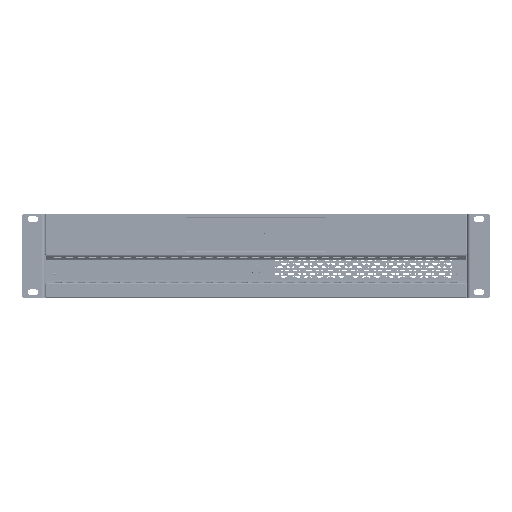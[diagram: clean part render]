
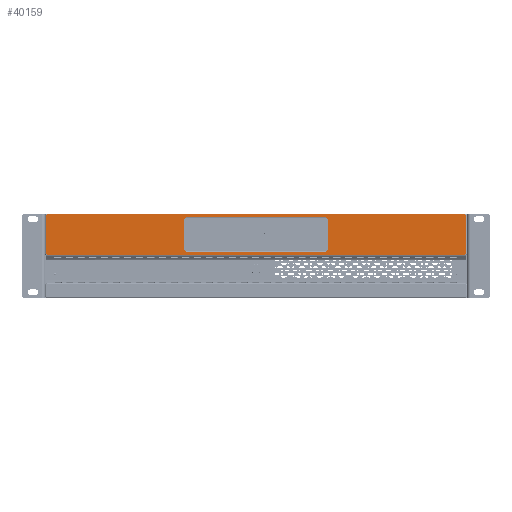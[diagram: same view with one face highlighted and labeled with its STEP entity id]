
A CAD part, top view. The second image highlights one B-rep face of the part: STEP entity #40159.
In plain terms, the highlighted planar face has unit normal (0, 0, 1).
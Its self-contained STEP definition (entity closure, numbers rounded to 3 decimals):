
#299 = VECTOR ( 'NONE', #232026, 1000. ) ;
#2179 = ORIENTED_EDGE ( 'NONE', *, *, #50499, .T. ) ;
#2362 = CARTESIAN_POINT ( 'NONE',  ( 695.4, 1039.124, 1675.694 ) ) ;
#4011 = ORIENTED_EDGE ( 'NONE', *, *, #243586, .T. ) ;
#9857 = CARTESIAN_POINT ( 'NONE',  ( 841.4, 1004.724, 1675.694 ) ) ;
#10285 = ORIENTED_EDGE ( 'NONE', *, *, #365114, .T. ) ;
#10516 = CARTESIAN_POINT ( 'NONE',  ( 404.4, 1004.724, 1675.694 ) ) ;
#10804 = DIRECTION ( 'NONE',  ( 0., 1., 0. ) ) ;
#13104 = ORIENTED_EDGE ( 'NONE', *, *, #17872, .T. ) ;
#13847 = AXIS2_PLACEMENT_3D ( 'NONE', #2362, #206776, #117858 ) ;
#15894 = VERTEX_POINT ( 'NONE', #167370 ) ;
#16342 = DIRECTION ( 'NONE',  ( 0., 0., -1. ) ) ;
#17084 = DIRECTION ( 'NONE',  ( -1., 0., 0. ) ) ;
#17872 = EDGE_CURVE ( 'NONE', #79213, #129396, #99486, .T. ) ;
#19382 = VECTOR ( 'NONE', #249282, 1000. ) ;
#23233 = EDGE_CURVE ( 'NONE', #33945, #152427, #162117, .T. ) ;
#23895 = LINE ( 'NONE', #116569, #299 ) ;
#23916 = LINE ( 'NONE', #283323, #19382 ) ;
#24650 = PLANE ( 'NONE',  #192707 ) ;
#29161 = CARTESIAN_POINT ( 'NONE',  ( 698.7, 1010.124, 1675.694 ) ) ;
#33411 = CARTESIAN_POINT ( 'NONE',  ( 405.4, 1004.724, 1675.694 ) ) ;
#33945 = VERTEX_POINT ( 'NONE', #186358 ) ;
#40159 = ADVANCED_FACE ( 'NONE', ( #193205, #138252 ), #24650, .F. ) ;
#41776 = DIRECTION ( 'NONE',  ( -1., 0., 0. ) ) ;
#45164 = AXIS2_PLACEMENT_3D ( 'NONE', #216652, #279145, #72808 ) ;
#50355 = CARTESIAN_POINT ( 'NONE',  ( 695.4, 1042.424, 1675.694 ) ) ;
#50499 = EDGE_CURVE ( 'NONE', #220933, #319322, #179268, .T. ) ;
#51854 = VERTEX_POINT ( 'NONE', #10516 ) ;
#57284 = ORIENTED_EDGE ( 'NONE', *, *, #337856, .T. ) ;
#63995 = CIRCLE ( 'NONE', #305982, 1. ) ;
#66061 = AXIS2_PLACEMENT_3D ( 'NONE', #76876, #16342, #251025 ) ;
#67029 = VERTEX_POINT ( 'NONE', #29161 ) ;
#69146 = ORIENTED_EDGE ( 'NONE', *, *, #23233, .T. ) ;
#72808 = DIRECTION ( 'NONE',  ( -1., 0., 0. ) ) ;
#75768 = LINE ( 'NONE', #274621, #150216 ) ;
#75865 = DIRECTION ( 'NONE',  ( 0., 0., -1. ) ) ;
#76876 = CARTESIAN_POINT ( 'NONE',  ( 551.4, 1010.124, 1675.694 ) ) ;
#77975 = AXIS2_PLACEMENT_3D ( 'NONE', #369106, #162797, #338837 ) ;
#79213 = VERTEX_POINT ( 'NONE', #109835 ) ;
#83064 = ORIENTED_EDGE ( 'NONE', *, *, #298148, .T. ) ;
#97610 = CARTESIAN_POINT ( 'NONE',  ( 623.4, 1003.724, 1675.694 ) ) ;
#99486 = CIRCLE ( 'NONE', #45164, 1. ) ;
#102330 = CARTESIAN_POINT ( 'NONE',  ( 551.4, 1039.124, 1675.694 ) ) ;
#103459 = DIRECTION ( 'NONE',  ( 1., 0., 0. ) ) ;
#108181 = EDGE_CURVE ( 'NONE', #51854, #358679, #63995, .T. ) ;
#109835 = CARTESIAN_POINT ( 'NONE',  ( 842.4, 1044.524, 1675.694 ) ) ;
#113161 = CIRCLE ( 'NONE', #149576, 1. ) ;
#115755 = CARTESIAN_POINT ( 'NONE',  ( 405.4, 1045.524, 1675.694 ) ) ;
#116569 = CARTESIAN_POINT ( 'NONE',  ( 842.4, 1024.624, 1675.694 ) ) ;
#117858 = DIRECTION ( 'NONE',  ( -1., 0., 0. ) ) ;
#121079 = DIRECTION ( 'NONE',  ( -1., 0., 0. ) ) ;
#122682 = CARTESIAN_POINT ( 'NONE',  ( 548.1, 1010.124, 1675.694 ) ) ;
#124801 = LINE ( 'NONE', #240280, #297108 ) ;
#127869 = LINE ( 'NONE', #97610, #217922 ) ;
#127890 = CARTESIAN_POINT ( 'NONE',  ( 698.7, 1039.124, 1675.694 ) ) ;
#129396 = VERTEX_POINT ( 'NONE', #273727 ) ;
#129787 = ORIENTED_EDGE ( 'NONE', *, *, #238579, .T. ) ;
#130145 = CARTESIAN_POINT ( 'NONE',  ( 695.4, 1042.424, 1675.694 ) ) ;
#131781 = EDGE_CURVE ( 'NONE', #247039, #67029, #337159, .T. ) ;
#132516 = VECTOR ( 'NONE', #251884, 1000. ) ;
#134443 = DIRECTION ( 'NONE',  ( 0., 0., -1. ) ) ;
#136417 = CARTESIAN_POINT ( 'NONE',  ( 698.7, 1024.624, 1675.694 ) ) ;
#138252 = FACE_OUTER_BOUND ( 'NONE', #215644, .T. ) ;
#141999 = DIRECTION ( 'NONE',  ( 0., -1., 0. ) ) ;
#144303 = EDGE_CURVE ( 'NONE', #319322, #51854, #23916, .T. ) ;
#148878 = DIRECTION ( 'NONE',  ( 0., 0., 1. ) ) ;
#149576 = AXIS2_PLACEMENT_3D ( 'NONE', #9857, #299570, #180313 ) ;
#150216 = VECTOR ( 'NONE', #17084, 1000. ) ;
#150678 = ORIENTED_EDGE ( 'NONE', *, *, #156523, .T. ) ;
#152427 = VERTEX_POINT ( 'NONE', #130145 ) ;
#156523 = EDGE_CURVE ( 'NONE', #302056, #257874, #124801, .T. ) ;
#162117 = LINE ( 'NONE', #50355, #196157 ) ;
#162797 = DIRECTION ( 'NONE',  ( 0., 0., -1. ) ) ;
#167370 = CARTESIAN_POINT ( 'NONE',  ( 841.4, 1003.724, 1675.694 ) ) ;
#168234 = CIRCLE ( 'NONE', #210373, 3.3 ) ;
#177095 = CIRCLE ( 'NONE', #13847, 3.3 ) ;
#179268 = CIRCLE ( 'NONE', #215686, 1. ) ;
#180313 = DIRECTION ( 'NONE',  ( -1., 0., 0. ) ) ;
#183761 = ORIENTED_EDGE ( 'NONE', *, *, #319388, .T. ) ;
#186358 = CARTESIAN_POINT ( 'NONE',  ( 551.4, 1042.424, 1675.694 ) ) ;
#188126 = DIRECTION ( 'NONE',  ( 0., 0., 1. ) ) ;
#192707 = AXIS2_PLACEMENT_3D ( 'NONE', #225290, #75865, #141999 ) ;
#192842 = CIRCLE ( 'NONE', #77975, 3.3 ) ;
#193205 = FACE_BOUND ( 'NONE', #339458, .T. ) ;
#196157 = VECTOR ( 'NONE', #103459, 1000. ) ;
#198117 = VERTEX_POINT ( 'NONE', #122682 ) ;
#199024 = CIRCLE ( 'NONE', #66061, 3.3 ) ;
#204954 = CARTESIAN_POINT ( 'NONE',  ( 404.4, 1044.524, 1675.694 ) ) ;
#206776 = DIRECTION ( 'NONE',  ( 0., 0., -1. ) ) ;
#210373 = AXIS2_PLACEMENT_3D ( 'NONE', #102330, #134443, #41776 ) ;
#215644 = EDGE_LOOP ( 'NONE', ( #284224, #2179, #228801, #289870, #296940, #183761, #230213, #13104 ) ) ;
#215686 = AXIS2_PLACEMENT_3D ( 'NONE', #246798, #188126, #216492 ) ;
#216492 = DIRECTION ( 'NONE',  ( -1., 0., 0. ) ) ;
#216652 = CARTESIAN_POINT ( 'NONE',  ( 841.4, 1044.524, 1675.694 ) ) ;
#217922 = VECTOR ( 'NONE', #273644, 1000. ) ;
#220933 = VERTEX_POINT ( 'NONE', #115755 ) ;
#225290 = CARTESIAN_POINT ( 'NONE',  ( 623.4, 1024.624, 1675.694 ) ) ;
#228801 = ORIENTED_EDGE ( 'NONE', *, *, #144303, .T. ) ;
#230213 = ORIENTED_EDGE ( 'NONE', *, *, #298838, .T. ) ;
#232026 = DIRECTION ( 'NONE',  ( 0., 1., 0. ) ) ;
#238579 = EDGE_CURVE ( 'NONE', #67029, #302056, #192842, .T. ) ;
#240280 = CARTESIAN_POINT ( 'NONE',  ( 623.4, 1006.824, 1675.694 ) ) ;
#243586 = EDGE_CURVE ( 'NONE', #152427, #247039, #177095, .T. ) ;
#245261 = CARTESIAN_POINT ( 'NONE',  ( 551.4, 1006.824, 1675.694 ) ) ;
#246798 = CARTESIAN_POINT ( 'NONE',  ( 405.4, 1044.524, 1675.694 ) ) ;
#247039 = VERTEX_POINT ( 'NONE', #127890 ) ;
#249282 = DIRECTION ( 'NONE',  ( 0., -1., 0. ) ) ;
#251025 = DIRECTION ( 'NONE',  ( -1., 0., 0. ) ) ;
#251884 = DIRECTION ( 'NONE',  ( 0., -1., 0. ) ) ;
#254135 = ORIENTED_EDGE ( 'NONE', *, *, #131781, .T. ) ;
#256524 = VERTEX_POINT ( 'NONE', #374242 ) ;
#257874 = VERTEX_POINT ( 'NONE', #245261 ) ;
#270218 = CARTESIAN_POINT ( 'NONE',  ( 548.1, 1039.124, 1675.694 ) ) ;
#273644 = DIRECTION ( 'NONE',  ( 1., 0., 0. ) ) ;
#273727 = CARTESIAN_POINT ( 'NONE',  ( 841.4, 1045.524, 1675.694 ) ) ;
#274621 = CARTESIAN_POINT ( 'NONE',  ( 623.4, 1045.524, 1675.694 ) ) ;
#276938 = EDGE_CURVE ( 'NONE', #129396, #220933, #75768, .T. ) ;
#279145 = DIRECTION ( 'NONE',  ( 0., 0., 1. ) ) ;
#280097 = EDGE_CURVE ( 'NONE', #358679, #15894, #127869, .T. ) ;
#283323 = CARTESIAN_POINT ( 'NONE',  ( 404.4, 1024.624, 1675.694 ) ) ;
#284224 = ORIENTED_EDGE ( 'NONE', *, *, #276938, .T. ) ;
#286292 = CARTESIAN_POINT ( 'NONE',  ( 695.4, 1006.824, 1675.694 ) ) ;
#289870 = ORIENTED_EDGE ( 'NONE', *, *, #108181, .T. ) ;
#296940 = ORIENTED_EDGE ( 'NONE', *, *, #280097, .T. ) ;
#297108 = VECTOR ( 'NONE', #121079, 1000. ) ;
#298148 = EDGE_CURVE ( 'NONE', #198117, #256524, #298658, .T. ) ;
#298658 = LINE ( 'NONE', #270218, #356574 ) ;
#298838 = EDGE_CURVE ( 'NONE', #356681, #79213, #23895, .T. ) ;
#299570 = DIRECTION ( 'NONE',  ( 0., 0., 1. ) ) ;
#302056 = VERTEX_POINT ( 'NONE', #286292 ) ;
#305982 = AXIS2_PLACEMENT_3D ( 'NONE', #33411, #148878, #372469 ) ;
#319322 = VERTEX_POINT ( 'NONE', #204954 ) ;
#319388 = EDGE_CURVE ( 'NONE', #15894, #356681, #113161, .T. ) ;
#337159 = LINE ( 'NONE', #136417, #132516 ) ;
#337856 = EDGE_CURVE ( 'NONE', #256524, #33945, #168234, .T. ) ;
#338837 = DIRECTION ( 'NONE',  ( -1., 0., 0. ) ) ;
#339458 = EDGE_LOOP ( 'NONE', ( #83064, #57284, #69146, #4011, #254135, #129787, #150678, #10285 ) ) ;
#340545 = CARTESIAN_POINT ( 'NONE',  ( 405.4, 1003.724, 1675.694 ) ) ;
#345577 = CARTESIAN_POINT ( 'NONE',  ( 842.4, 1004.724, 1675.694 ) ) ;
#356574 = VECTOR ( 'NONE', #10804, 1000. ) ;
#356681 = VERTEX_POINT ( 'NONE', #345577 ) ;
#358679 = VERTEX_POINT ( 'NONE', #340545 ) ;
#365114 = EDGE_CURVE ( 'NONE', #257874, #198117, #199024, .T. ) ;
#369106 = CARTESIAN_POINT ( 'NONE',  ( 695.4, 1010.124, 1675.694 ) ) ;
#372469 = DIRECTION ( 'NONE',  ( -1., 0., 0. ) ) ;
#374242 = CARTESIAN_POINT ( 'NONE',  ( 548.1, 1039.124, 1675.694 ) ) ;
